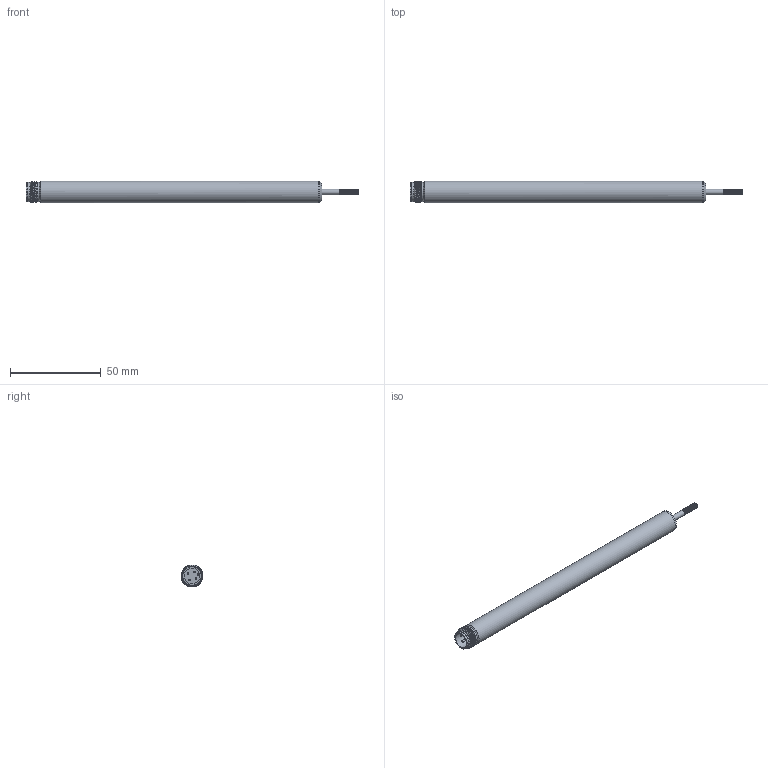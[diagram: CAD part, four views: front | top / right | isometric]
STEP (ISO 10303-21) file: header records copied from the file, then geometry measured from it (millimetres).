
FILE_DESCRIPTION( ( 'STEP AP214' ), '1' );
FILE_NAME( 'N:/Engineering/CAD_Solid/LVDT/SM/Kunden-3D-Modell/SM50-SG-SA.stp', '2011-12-12T13:25:35', ( ' ' ), ( ' ' ), 'XStep 1.0', ' ', ' ' );
FILE_SCHEMA( ( 'CONFIG_CONTROL_DESIGN) ( )' ) );
Length unit declared in the file: metre
Products named in the file (2): 1; 2
Bounding box: 183.1 x 12 x 12 mm (x, y, z)
Surface area: 7533.4 mm2 (no closed solid volume)
Topology: 0 solids, 50 shells, 51 faces, 204 edges, 181 vertices
Faces by surface type: cylinder 21, plane 12, cone 9, bspline 9
Full cylindrical faces by diameter (mm): 1 x4, 2.4 x1, 3 x1, 8.5 x1, 10 x1, 10.6 x2, 12 x2
Entity records: 6256 total; most frequent: CARTESIAN_POINT 4447, DIRECTION 296, ORIENTED_EDGE 168, EDGE_CURVE 168, VERTEX_POINT 168, AXIS2_PLACEMENT_3D 131, CIRCLE 88, FACE_BOUND 82
